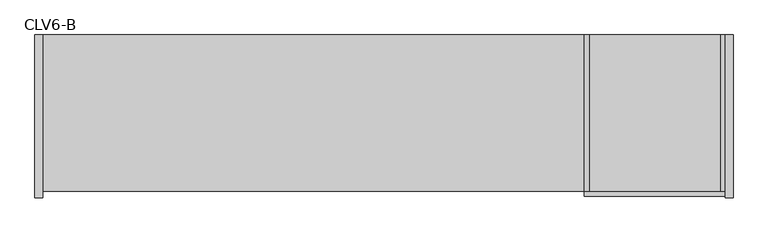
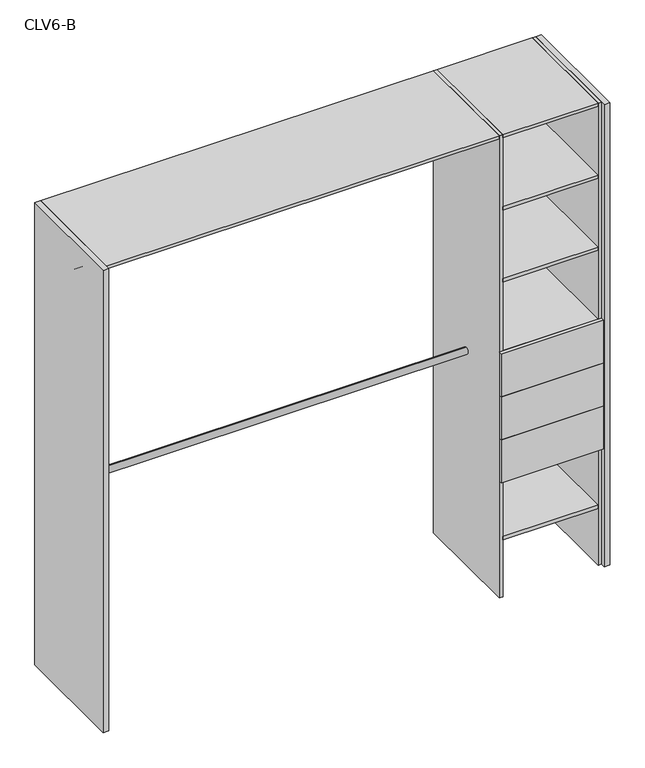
"""IFC4 building model written with IfcOpenShell, lengths in millimetres: furniture geometry, Closet 1estantes-1tubos_2 laterales : CLV6-B."""

import ifcopenshell
import ifcopenshell.guid

model = None  # the IFC model being written
_history = None  # IfcOwnerHistory: only IFC2X3 demands one
_inside = {}  # id of a spatial element -> (the spatial element, [elements in it])
_under = {}  # id of a project, library or spatial element -> (it, [spatial elements below it])
_declared = {}  # id of a project -> (the project, [libraries it declares])
_typed = {}  # id of a type object -> (the type object, [elements of that type])
_made_of = {}  # id of a material, layer set ... -> (it, [elements and type objects made of it])


def new_model(schema):
    """Start an empty IFC model of exactly this schema.

    Asked for "IFC4X3", IfcOpenShell would pick the latest addendum, in which some entities
    have other attributes; the version numbers below select the first issue.
    IFC2X3 requires an IfcOwnerHistory on every rooted entity: one is made here for all.
    """
    global model, _history
    if schema == "IFC4X3":
        model = ifcopenshell.file(schema_version=(4, 3, 0, 0))
    else:
        model = ifcopenshell.file(schema=schema)
    _inside.clear()
    _under.clear()
    _declared.clear()
    _typed.clear()
    _made_of.clear()
    _history = None
    if model.schema == "IFC2X3":
        org = make("IfcOrganization", Name="unknown")
        user = make(
            "IfcPersonAndOrganization",
            ThePerson=make("IfcPerson", FamilyName="unknown"),
            TheOrganization=org,
        )
        app = make(
            "IfcApplication",
            ApplicationDeveloper=org,
            Version="unknown",
            ApplicationFullName="unknown",
            ApplicationIdentifier="unknown",
        )
        _history = make(
            "IfcOwnerHistory",
            OwningUser=user,
            OwningApplication=app,
            ChangeAction="ADDED",
            CreationDate=0,
        )
    return model


def make(cls, **values):
    """One entity of the class cls with the attributes given. An attribute that is None is left unset."""
    return model.create_entity(
        cls, **{name: value for name, value in values.items() if value is not None}
    )


def rooted(cls, **values):
    """An entity with a GlobalId (a new one), such as an element, a storey or a relation."""
    return make(cls, GlobalId=ifcopenshell.guid.new(), OwnerHistory=_history, **values)


def si_unit(unit_type, name, prefix=None):
    """IfcSIUnit, for example si_unit("LENGTHUNIT", "METRE", prefix="MILLI")."""
    return make("IfcSIUnit", UnitType=unit_type, Prefix=prefix, Name=name)


def assignment(units):
    """IfcUnitAssignment: the units of a project."""
    return None if units is None else make("IfcUnitAssignment", Units=units)


def point(xyz):
    """IfcCartesianPoint."""
    return None if xyz is None else make("IfcCartesianPoint", Coordinates=xyz)


def direction(xyz):
    """IfcDirection."""
    return None if xyz is None else make("IfcDirection", DirectionRatios=xyz)


def frame(location, z_axis=None, x_axis=None):
    """IfcAxis2Placement3D, a coordinate frame: its origin and axes. An axis left out is left unset."""
    return make(
        "IfcAxis2Placement3D",
        Location=point(location),
        Axis=direction(z_axis),
        RefDirection=direction(x_axis),
    )


def frame_2d(location, x_axis=None):
    """IfcAxis2Placement2D, a coordinate frame in the plane: its origin and x axis."""
    return make(
        "IfcAxis2Placement2D", Location=point(location), RefDirection=direction(x_axis)
    )


def origin():
    """The frame at (0, 0, 0) with its axes left unset."""
    return frame((0.0, 0.0, 0.0))


def origin_with_axes():
    """The frame at (0, 0, 0) with the z axis (0, 0, 1) and the x axis (1, 0, 0) written out."""
    return frame((0.0, 0.0, 0.0), z_axis=(0.0, 0.0, 1.0), x_axis=(1.0, 0.0, 0.0))


def place(relative_to, where):
    """IfcLocalPlacement: puts the frame where relative to a parent placement (None: the world)."""
    return make(
        "IfcLocalPlacement", PlacementRelTo=relative_to, RelativePlacement=where
    )


def context(
    kind, dimensions, precision=None, world=None, true_north=None, identifier=None
):
    """IfcGeometricRepresentationContext, for example the 3D "Model" context."""
    return make(
        "IfcGeometricRepresentationContext",
        ContextIdentifier=identifier,
        ContextType=kind,
        CoordinateSpaceDimension=dimensions,
        Precision=precision,
        WorldCoordinateSystem=world,
        TrueNorth=true_north,
    )


def project(units=None, contexts=None):
    """IfcProject with its units and contexts."""
    return rooted(
        "IfcProject",
        Name="project",
        RepresentationContexts=contexts,
        UnitsInContext=assignment(units),
    )


def spatial(cls, under=None, at=None, **own):
    """A site, building, storey or space (cls), placed at a placement, below another one or the project."""
    s = rooted(cls, ObjectPlacement=at, **own)
    if under is not None:
        _under.setdefault(under.id(), (under, []))[1].append(s)
    return s


def polyline(points):
    """IfcPolyline through the points."""
    return make("IfcPolyline", Points=[point(p) for p in points])


def circle_curve(where, radius):
    """IfcCircle in the frame where."""
    return make("IfcCircle", Position=where, Radius=radius)


def trimmed(basis, trim1, trim2, sense, master):
    """IfcTrimmedCurve: the piece of a basis curve between two trims."""
    return make(
        "IfcTrimmedCurve",
        BasisCurve=basis,
        Trim1=trim1,
        Trim2=trim2,
        SenseAgreement=sense,
        MasterRepresentation=master,
    )


def segment(curve, same_sense, transition):
    """IfcCompositeCurveSegment."""
    return make(
        "IfcCompositeCurveSegment",
        Transition=transition,
        SameSense=same_sense,
        ParentCurve=curve,
    )


def composite_curve(segments, self_intersect=None):
    """IfcCompositeCurve: segments joined end to end."""
    return make("IfcCompositeCurve", Segments=segments, SelfIntersect=self_intersect)


def outline(outer, holes=None, kind="AREA"):
    """IfcArbitraryClosedProfileDef: a profile drawn as a closed curve; with holes, ...WithVoids."""
    if holes is None:
        return make("IfcArbitraryClosedProfileDef", ProfileType=kind, OuterCurve=outer)
    return make(
        "IfcArbitraryProfileDefWithVoids",
        ProfileType=kind,
        OuterCurve=outer,
        InnerCurves=holes,
    )


def extrude(swept, where, along, depth):
    """IfcExtrudedAreaSolid: the profile swept, set in the frame where, extruded along a direction by depth."""
    return make(
        "IfcExtrudedAreaSolid",
        SweptArea=swept,
        Position=where,
        ExtrudedDirection=direction(along),
        Depth=depth,
    )


def shape(context_of_items, identifier, shape_type, items):
    """IfcShapeRepresentation: the items that make up one representation, for example the "Body"."""
    return make(
        "IfcShapeRepresentation",
        ContextOfItems=context_of_items,
        RepresentationIdentifier=identifier,
        RepresentationType=shape_type,
        Items=items,
    )


def source(mapping_origin, context_of_items, identifier, shape_type, items):
    """IfcRepresentationMap: a shape defined once, which mapped items show again and again."""
    return make(
        "IfcRepresentationMap",
        MappingOrigin=mapping_origin,
        MappedRepresentation=shape(context_of_items, identifier, shape_type, items),
    )


def transform(
    local_origin,
    x_axis=None,
    y_axis=None,
    z_axis=None,
    scale=None,
    scale2=None,
    scale3=None,
    uniform=True,
):
    """IfcCartesianTransformationOperator3D, or its non-uniform kind. x_axis, y_axis, z_axis: its Axis1, 2, 3."""
    if uniform:
        return make(
            "IfcCartesianTransformationOperator3D",
            Axis1=direction(x_axis),
            Axis2=direction(y_axis),
            LocalOrigin=point(local_origin),
            Scale=scale,
            Axis3=direction(z_axis),
        )
    return make(
        "IfcCartesianTransformationOperator3DnonUniform",
        Axis1=direction(x_axis),
        Axis2=direction(y_axis),
        LocalOrigin=point(local_origin),
        Scale=scale,
        Axis3=direction(z_axis),
        Scale2=scale2,
        Scale3=scale3,
    )


def mapped(mapping_source, mapping_target):
    """IfcMappedItem: shows the shape of a source again, moved by a transform."""
    return make(
        "IfcMappedItem", MappingSource=mapping_source, MappingTarget=mapping_target
    )


def made_of(thing, what):
    """Note that an element or type object is made of a material, layer set ...; save() writes the relation."""
    if what is not None:
        _made_of.setdefault(what.id(), (what, []))[1].append(thing)
    return thing


def element(
    cls,
    number,
    at=None,
    inside=None,
    cuts=None,
    type_object=None,
    material=None,
    context=None,
    identifier="Body",
    shape_type=None,
    held_by="IfcProductDefinitionShape",
    body=None,
    shapes=None,
    **own,
):
    """One element of the class cls, such as IfcWall. Its Tag is "e" and its number.

    at: its placement. inside: the storey or other place that contains it. cuts: it is an
    opening in that element (IfcRelVoidsElement). A single representation is given by context,
    identifier, shape_type and body (its items); several are given by shapes. held_by: the class
    of the entity that holds the representations. save() writes the other relations.
    """
    e = rooted(cls, Tag="e%d" % number, ObjectPlacement=at, **own)
    if body is not None:
        shapes = [shape(context, identifier, shape_type, body)]
    if shapes is not None:
        e.Representation = make(held_by, Representations=shapes)
    if inside is not None:
        _inside.setdefault(inside.id(), (inside, []))[1].append(e)
    if cuts is not None:
        rooted(
            "IfcRelVoidsElement", RelatingBuildingElement=cuts, RelatedOpeningElement=e
        )
    if type_object is not None:
        _typed.setdefault(type_object.id(), (type_object, []))[1].append(e)
    return made_of(e, material)


def aggregate(whole, parts):
    """IfcRelAggregates: a whole, such as a stair, and the parts it consists of."""
    return rooted("IfcRelAggregates", RelatingObject=whole, RelatedObjects=parts)


def save(model, path):
    """Write the relations noted so far, then the file.

    IfcRelAggregates (storeys below a building ...), IfcRelContainedInSpatialStructure (elements
    in a storey), IfcRelDefinesByType, IfcRelAssociatesMaterial and IfcRelDeclares: one each for
    every whole, place, type object, material and project.
    """
    for whole, parts in _under.values():
        aggregate(whole, parts)
    for where, things in _inside.values():
        rooted(
            "IfcRelContainedInSpatialStructure",
            RelatedElements=things,
            RelatingStructure=where,
        )
    for kind, things in _typed.values():
        rooted("IfcRelDefinesByType", RelatedObjects=things, RelatingType=kind)
    for what, things in _made_of.values():
        rooted("IfcRelAssociatesMaterial", RelatedObjects=things, RelatingMaterial=what)
    for by, libraries in _declared.values():
        rooted("IfcRelDeclares", RelatingContext=by, RelatedDefinitions=libraries)
    model.write(path)


def clv6_b_5298c666(model_context):
    return source(origin(), model_context, "Body", "SweptSolid", [
        extrude(outline(polyline([(-1954.9656009, 80.0), (-1979.9656009, 80.0), (-1979.9656009, 600.0), (-1954.9656009, 600.0), (-1954.9656009, 80.0)])), origin_with_axes(), (0.0, 0.0, 1.0), 2150.0),
        extrude(outline(polyline([(250.0, 80.0), (225.0, 80.0), (225.0, 600.0), (250.0, 600.0), (250.0, 80.0)])), origin_with_axes(), (0.0, 0.0, 1.0), 2150.0),
        extrude(outline(polyline([(225.0, 100.0), (210.0, 100.0), (210.0, 600.0), (225.0, 600.0), (225.0, 100.0)])), origin_with_axes(), (0.0, 0.0, 1.0), 2150.0),
        extrude(outline(polyline([(-210.0, 100.0), (-225.0, 100.0), (-225.0, 600.0), (-210.0, 600.0), (-210.0, 100.0)])), origin_with_axes(), (0.0, 0.0, 1.0), 2150.0),
        extrude(outline(polyline([(225.0, 100.0), (225.0, 85.0), (-225.0, 85.0), (-225.0, 100.0), (225.0, 100.0)])), frame((0.0, 0.0, 945.0), z_axis=(0.0, 0.0, 1.0), x_axis=(1.0, 0.0, 0.0)), (0.0, 0.0, 1.0), 200.0),
        extrude(outline(polyline([(225.0, 100.0), (225.0, 85.0), (-225.0, 85.0), (-225.0, 100.0), (225.0, 100.0)])), frame((0.0, 0.0, 745.0), z_axis=(0.0, 0.0, 1.0), x_axis=(1.0, 0.0, 0.0)), (0.0, 0.0, 1.0), 200.0),
        extrude(outline(polyline([(225.0, 100.0), (225.0, 85.0), (-225.0, 85.0), (-225.0, 100.0), (225.0, 100.0)])), frame((0.0, 0.0, 545.0), z_axis=(0.0, 0.0, 1.0), x_axis=(1.0, 0.0, 0.0)), (0.0, 0.0, 1.0), 200.0),
        extrude(outline(polyline([(210.0, 100.0), (-210.0, 100.0), (-210.0, 600.0), (210.0, 600.0), (210.0, 100.0)])), frame((0.0, 0.0, 1130.0), z_axis=(0.0, 0.0, 1.0), x_axis=(1.0, 0.0, 0.0)), (0.0, 0.0, 1.0), 15.0),
        extrude(outline(composite_curve([segment(trimmed(circle_curve(frame_2d((350.0, 1000.0)), 15.0), [point((350.0, 1015.0))], [point((350.0, 985.0))], False, "CARTESIAN"), True, "CONTINUOUS"), segment(trimmed(circle_curve(frame_2d((350.0, 1000.0)), 15.0), [point((350.0, 985.0))], [point((350.0, 1015.0))], False, "CARTESIAN"), True, "CONTINUOUS")], self_intersect=False)), frame((-1954.9656009, 0.0, 0.0), z_axis=(1.0, 0.0, 0.0), x_axis=(0.0, 1.0, 0.0)), (0.0, 0.0, 1.0), 1729.9656009),
        extrude(outline(composite_curve([segment(trimmed(circle_curve(frame_2d((350.0, 2000.0)), 15.0), [point((350.0, 2015.0))], [point((350.0, 1985.0))], False, "CARTESIAN"), True, "CONTINUOUS"), segment(trimmed(circle_curve(frame_2d((350.0, 2000.0)), 15.0), [point((350.0, 1985.0))], [point((350.0, 2015.0))], False, "CARTESIAN"), True, "CONTINUOUS")], self_intersect=False)), frame((-1954.9656009, 0.0, 0.0), z_axis=(1.0, 0.0, 0.0), x_axis=(0.0, 1.0, 0.0)), (0.0, 0.0, 1.0), 1729.9656009),
        extrude(outline(polyline([(210.0, 100.0), (-210.0, 100.0), (-210.0, 600.0), (210.0, 600.0), (210.0, 100.0)])), frame((0.0, 0.0, 265.0), z_axis=(0.0, 0.0, 1.0), x_axis=(1.0, 0.0, 0.0)), (0.0, 0.0, 1.0), 15.0),
        extrude(outline(polyline([(210.0, 100.0), (-210.0, 100.0), (-210.0, 600.0), (210.0, 600.0), (210.0, 100.0)])), frame((0.0, 0.0, 545.0), z_axis=(0.0, 0.0, 1.0), x_axis=(1.0, 0.0, 0.0)), (0.0, 0.0, 1.0), 15.0),
        extrude(outline(polyline([(210.0, 100.0), (-210.0, 100.0), (-210.0, 600.0), (210.0, 600.0), (210.0, 100.0)])), frame((0.0, 0.0, 1465.0), z_axis=(0.0, 0.0, 1.0), x_axis=(1.0, 0.0, 0.0)), (0.0, 0.0, 1.0), 15.0),
        extrude(outline(polyline([(210.0, 100.0), (-210.0, 100.0), (-210.0, 600.0), (210.0, 600.0), (210.0, 100.0)])), frame((0.0, 0.0, 1800.0), z_axis=(0.0, 0.0, 1.0), x_axis=(1.0, 0.0, 0.0)), (0.0, 0.0, 1.0), 15.0),
        extrude(outline(polyline([(-210.0, 100.0), (-1954.9656009, 100.0), (-1954.9656009, 600.0), (-210.0, 600.0), (-210.0, 100.0)])), frame((0.0, 0.0, 2135.0), z_axis=(0.0, 0.0, 1.0), x_axis=(1.0, 0.0, 0.0)), (0.0, 0.0, 1.0), 15.0),
        extrude(outline(polyline([(210.0, 100.0), (-210.0, 100.0), (-210.0, 600.0), (210.0, 600.0), (210.0, 100.0)])), frame((0.0, 0.0, 2135.0), z_axis=(0.0, 0.0, 1.0), x_axis=(1.0, 0.0, 0.0)), (0.0, 0.0, 1.0), 15.0),
    ])


if __name__ == "__main__":
    model = new_model("IFC4")
    model_context = context("Model", 3, world=origin())
    ifc_project = project(units=[si_unit("LENGTHUNIT", "METRE", prefix="MILLI")], contexts=[model_context])
    site = spatial("IfcSite", under=ifc_project)
    building = spatial("IfcBuilding", under=site)
    placement = place(None, origin())
    clv6_b_shape = clv6_b_5298c666(model_context)
    element("IfcFurniture", 1, ObjectType="Closet 1estantes-1tubos_2 laterales : CLV6-B", at=placement, inside=building, context=model_context, shape_type="MappedRepresentation", body=[
        mapped(clv6_b_shape, transform((0.0, 0.0, 0.0), x_axis=(1.0, 0.0, 0.0), y_axis=(0.0, 1.0, 0.0), z_axis=(0.0, 0.0, 1.0))),
    ])
    save(model, "model.ifc")
